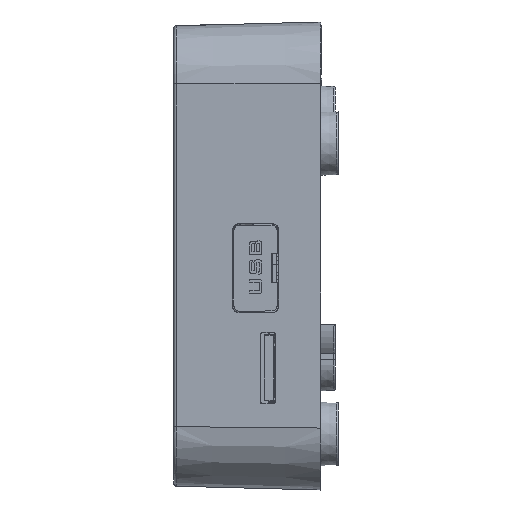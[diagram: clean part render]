
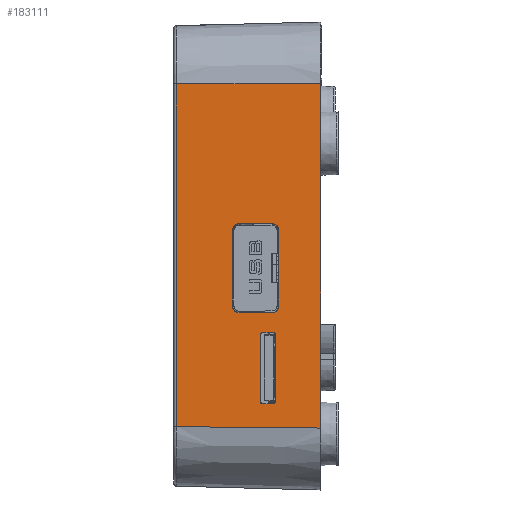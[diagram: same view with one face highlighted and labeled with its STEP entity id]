
A CAD part, left-side view. The second image highlights one B-rep face of the part: STEP entity #183111.
In plain terms, the highlighted planar face has unit normal (-1, 0.026, 0).
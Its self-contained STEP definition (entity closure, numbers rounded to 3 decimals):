
#4393=ELLIPSE('',#191997,0.356,0.356);
#4395=ELLIPSE('',#192001,0.356,0.356);
#4397=ELLIPSE('',#192005,0.357,0.357);
#4399=ELLIPSE('',#192009,0.357,0.357);
#4401=ELLIPSE('',#192013,1.12,1.12);
#4403=ELLIPSE('',#192017,1.116,1.116);
#4405=ELLIPSE('',#192021,1.12,1.12);
#4407=ELLIPSE('',#192025,1.116,1.116);
#4420=ELLIPSE('',#192480,0.6,0.6);
#8829=FACE_BOUND('',#19287,.T.);
#8830=FACE_BOUND('',#19288,.T.);
#10654=FACE_OUTER_BOUND('',#19286,.T.);
#19286=EDGE_LOOP('',(#131331,#131332,#131333,#131334,#131335,#131336));
#19287=EDGE_LOOP('',(#131337,#131338,#131339,#131340,#131341,#131342,#131343,
#131344));
#19288=EDGE_LOOP('',(#131345,#131346,#131347,#131348,#131349,#131350,#131351,
#131352));
#32592=LINE('',#257310,#54165);
#32596=LINE('',#257322,#54169);
#32600=LINE('',#257334,#54173);
#32605=LINE('',#257347,#54178);
#32608=LINE('',#257358,#54181);
#32612=LINE('',#257370,#54185);
#32615=LINE('',#257380,#54188);
#32621=LINE('',#257395,#54194);
#33218=LINE('',#262452,#54791);
#33220=LINE('',#262465,#54793);
#33228=LINE('',#262490,#54801);
#33248=LINE('',#262607,#54821);
#33249=LINE('',#262610,#54822);
#54165=VECTOR('',#207413,10.);
#54169=VECTOR('',#207425,10.);
#54173=VECTOR('',#207437,10.);
#54178=VECTOR('',#207450,10.);
#54181=VECTOR('',#207461,10.);
#54185=VECTOR('',#207473,10.);
#54188=VECTOR('',#207484,10.);
#54194=VECTOR('',#207498,10.);
#54791=VECTOR('',#208899,10.);
#54793=VECTOR('',#208919,10.001);
#54801=VECTOR('',#208947,2.43);
#54821=VECTOR('',#209039,10.);
#54822=VECTOR('',#209042,10.);
#75842=VERTEX_POINT('',#257307);
#75843=VERTEX_POINT('',#257309);
#75845=VERTEX_POINT('',#257315);
#75847=VERTEX_POINT('',#257321);
#75849=VERTEX_POINT('',#257327);
#75851=VERTEX_POINT('',#257333);
#75853=VERTEX_POINT('',#257339);
#75855=VERTEX_POINT('',#257345);
#75858=VERTEX_POINT('',#257355);
#75859=VERTEX_POINT('',#257357);
#75861=VERTEX_POINT('',#257363);
#75863=VERTEX_POINT('',#257369);
#75865=VERTEX_POINT('',#257375);
#75866=VERTEX_POINT('',#257379);
#75869=VERTEX_POINT('',#257387);
#75871=VERTEX_POINT('',#257393);
#76572=VERTEX_POINT('',#262446);
#76573=VERTEX_POINT('',#262450);
#76575=VERTEX_POINT('',#262463);
#76582=VERTEX_POINT('',#262488);
#76595=VERTEX_POINT('',#262606);
#76596=VERTEX_POINT('',#262608);
#98133=EDGE_CURVE('',#75843,#75842,#32592,.T.);
#98136=EDGE_CURVE('',#75845,#75843,#4393,.T.);
#98139=EDGE_CURVE('',#75847,#75845,#32596,.T.);
#98142=EDGE_CURVE('',#75849,#75847,#4395,.T.);
#98145=EDGE_CURVE('',#75851,#75849,#32600,.T.);
#98149=EDGE_CURVE('',#75842,#75853,#4397,.T.);
#98152=EDGE_CURVE('',#75853,#75855,#32605,.T.);
#98154=EDGE_CURVE('',#75855,#75851,#4399,.T.);
#98157=EDGE_CURVE('',#75859,#75858,#32608,.T.);
#98160=EDGE_CURVE('',#75861,#75859,#4401,.T.);
#98163=EDGE_CURVE('',#75863,#75861,#32612,.T.);
#98166=EDGE_CURVE('',#75865,#75863,#4403,.T.);
#98168=EDGE_CURVE('',#75866,#75865,#32615,.T.);
#98173=EDGE_CURVE('',#75858,#75869,#4405,.T.);
#98176=EDGE_CURVE('',#75869,#75871,#32621,.T.);
#98178=EDGE_CURVE('',#75871,#75866,#4407,.T.);
#99250=EDGE_CURVE('',#76572,#76573,#33218,.T.);
#99257=EDGE_CURVE('',#76575,#76572,#33220,.T.);
#99270=EDGE_CURVE('',#76582,#76575,#33228,.T.);
#99302=EDGE_CURVE('',#76595,#76573,#33248,.T.);
#99303=EDGE_CURVE('',#76595,#76596,#4420,.T.);
#99304=EDGE_CURVE('',#76582,#76596,#33249,.T.);
#131331=ORIENTED_EDGE('',*,*,#99257,.F.);
#131332=ORIENTED_EDGE('',*,*,#99270,.F.);
#131333=ORIENTED_EDGE('',*,*,#99304,.T.);
#131334=ORIENTED_EDGE('',*,*,#99303,.F.);
#131335=ORIENTED_EDGE('',*,*,#99302,.T.);
#131336=ORIENTED_EDGE('',*,*,#99250,.F.);
#131337=ORIENTED_EDGE('',*,*,#98145,.T.);
#131338=ORIENTED_EDGE('',*,*,#98142,.T.);
#131339=ORIENTED_EDGE('',*,*,#98139,.T.);
#131340=ORIENTED_EDGE('',*,*,#98136,.T.);
#131341=ORIENTED_EDGE('',*,*,#98133,.T.);
#131342=ORIENTED_EDGE('',*,*,#98149,.T.);
#131343=ORIENTED_EDGE('',*,*,#98152,.T.);
#131344=ORIENTED_EDGE('',*,*,#98154,.T.);
#131345=ORIENTED_EDGE('',*,*,#98168,.T.);
#131346=ORIENTED_EDGE('',*,*,#98166,.T.);
#131347=ORIENTED_EDGE('',*,*,#98163,.T.);
#131348=ORIENTED_EDGE('',*,*,#98160,.T.);
#131349=ORIENTED_EDGE('',*,*,#98157,.T.);
#131350=ORIENTED_EDGE('',*,*,#98173,.T.);
#131351=ORIENTED_EDGE('',*,*,#98176,.T.);
#131352=ORIENTED_EDGE('',*,*,#98178,.T.);
#171301=PLANE('',#192482);
#183111=ADVANCED_FACE('',(#10654,#8829,#8830),#171301,.T.);
#191997=AXIS2_PLACEMENT_3D('',#257316,#207419,#207420);
#192001=AXIS2_PLACEMENT_3D('',#257328,#207431,#207432);
#192005=AXIS2_PLACEMENT_3D('',#257341,#207444,#207445);
#192009=AXIS2_PLACEMENT_3D('',#257350,#207455,#207456);
#192013=AXIS2_PLACEMENT_3D('',#257364,#207467,#207468);
#192017=AXIS2_PLACEMENT_3D('',#257376,#207479,#207480);
#192021=AXIS2_PLACEMENT_3D('',#257389,#207492,#207493);
#192025=AXIS2_PLACEMENT_3D('',#257398,#207503,#207504);
#192480=AXIS2_PLACEMENT_3D('',#262609,#209040,#209041);
#192482=AXIS2_PLACEMENT_3D('',#262612,#209045,#209046);
#207413=DIRECTION('',(-0.026,-1.,0.001));
#207419=DIRECTION('center_axis',(1.,-0.026,0.));
#207420=DIRECTION('ref_axis',(0.026,1.,0.));
#207425=DIRECTION('',(0.,0.,1.));
#207431=DIRECTION('center_axis',(1.,-0.026,0.));
#207432=DIRECTION('ref_axis',(0.026,1.,0.));
#207437=DIRECTION('',(0.026,1.,0.001));
#207444=DIRECTION('center_axis',(1.,-0.026,0.));
#207445=DIRECTION('ref_axis',(0.026,1.,0.));
#207450=DIRECTION('',(0.,0.,-1.));
#207455=DIRECTION('center_axis',(1.,-0.026,0.));
#207456=DIRECTION('ref_axis',(0.026,1.,0.));
#207461=DIRECTION('',(0.,0.,-1.));
#207467=DIRECTION('center_axis',(1.,-0.026,0.));
#207468=DIRECTION('ref_axis',(0.026,1.,0.));
#207473=DIRECTION('',(-0.026,-1.,0.001));
#207479=DIRECTION('center_axis',(1.,-0.026,0.));
#207480=DIRECTION('ref_axis',(0.026,1.,0.));
#207484=DIRECTION('',(0.,0.,1.));
#207492=DIRECTION('center_axis',(1.,-0.026,0.));
#207493=DIRECTION('ref_axis',(0.026,1.,0.));
#207498=DIRECTION('',(0.026,1.,0.001));
#207503=DIRECTION('center_axis',(1.,-0.026,0.));
#207504=DIRECTION('ref_axis',(0.026,1.,0.));
#208899=DIRECTION('',(0.,0.,1.));
#208919=DIRECTION('',(0.026,1.,0.009));
#208947=DIRECTION('',(0.,0.,-1.));
#209039=DIRECTION('',(0.026,1.,0.));
#209040=DIRECTION('center_axis',(-1.,0.026,0.));
#209041=DIRECTION('ref_axis',(-0.026,-1.,0.));
#209042=DIRECTION('',(0.026,1.,0.));
#209045=DIRECTION('center_axis',(-1.,0.026,0.));
#209046=DIRECTION('ref_axis',(0.,0.,
1.));
#257307=CARTESIAN_POINT('',(-92.91,7.576,-5.764));
#257309=CARTESIAN_POINT('',(-92.861,9.426,-5.765));
#257310=CARTESIAN_POINT('',(-92.984,4.749,-5.762));
#257315=CARTESIAN_POINT('',(-92.852,9.781,-6.121));
#257316=CARTESIAN_POINT('Origin',(-92.861,9.425,-6.121));
#257321=CARTESIAN_POINT('',(-92.852,9.781,-17.501));
#257322=CARTESIAN_POINT('',(-92.852,9.781,-19.717));
#257327=CARTESIAN_POINT('',(-92.861,9.426,-17.857));
#257328=CARTESIAN_POINT('Origin',(-92.861,9.425,-17.501));
#257333=CARTESIAN_POINT('',(-92.91,7.576,-17.858));
#257334=CARTESIAN_POINT('',(-93.008,3.818,-17.86));
#257339=CARTESIAN_POINT('',(-92.919,7.218,-6.121));
#257341=CARTESIAN_POINT('Origin',(-92.91,7.575,-6.121));
#257345=CARTESIAN_POINT('',(-92.919,7.218,-17.501));
#257347=CARTESIAN_POINT('',(-92.919,7.218,-14.027));
#257350=CARTESIAN_POINT('Origin',(-92.91,7.575,-17.501));
#257355=CARTESIAN_POINT('',(-92.932,6.72,-1.301));
#257357=CARTESIAN_POINT('',(-92.932,6.72,11.524));
#257358=CARTESIAN_POINT('',(-92.932,6.72,-5.204));
#257363=CARTESIAN_POINT('',(-92.903,7.841,12.644));
#257364=CARTESIAN_POINT('Origin',(-92.903,7.84,11.524));
#257369=CARTESIAN_POINT('',(-92.756,13.426,12.64));
#257370=CARTESIAN_POINT('',(-92.931,6.755,12.645));
#257375=CARTESIAN_POINT('',(-92.727,14.542,11.524));
#257376=CARTESIAN_POINT('Origin',(-92.757,13.425,11.524));
#257379=CARTESIAN_POINT('',(-92.727,14.542,-1.301));
#257380=CARTESIAN_POINT('',(-92.727,14.542,-11.617));
#257387=CARTESIAN_POINT('',(-92.903,7.841,-2.421));
#257389=CARTESIAN_POINT('Origin',(-92.903,7.84,-1.301));
#257393=CARTESIAN_POINT('',(-92.756,13.426,-2.417));
#257395=CARTESIAN_POINT('',(-93.005,3.945,-2.424));
#257398=CARTESIAN_POINT('Origin',(-92.757,13.425,-1.301));
#262446=CARTESIAN_POINT('',(-92.479,24.013,-21.713));
#262450=CARTESIAN_POINT('',(-92.479,24.013,36.288));
#262452=CARTESIAN_POINT('',(-92.479,24.013,-2.21));
#262463=CARTESIAN_POINT('',(-93.119,-0.4,-21.94));
#262465=CARTESIAN_POINT('',(-93.05,2.228,-21.916));
#262488=CARTESIAN_POINT('',(-93.119,-0.4,36.288));
#262490=CARTESIAN_POINT('',(-93.119,-0.4,-19.513));
#262606=CARTESIAN_POINT('',(-92.739,14.104,36.288));
#262607=CARTESIAN_POINT('',(-93.119,-0.4,36.288));
#262608=CARTESIAN_POINT('',(-92.739,14.103,36.288));
#262609=CARTESIAN_POINT('Origin',(-92.726,14.593,36.635));
#262610=CARTESIAN_POINT('',(-93.047,2.35,36.288));
#262612=CARTESIAN_POINT('Origin',(-93.108,0.006,-21.933));
